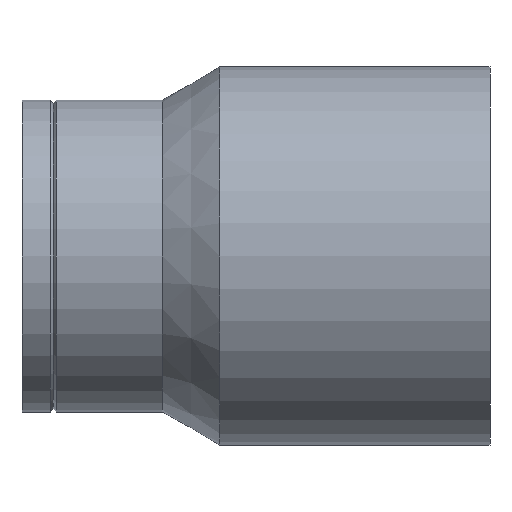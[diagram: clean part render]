
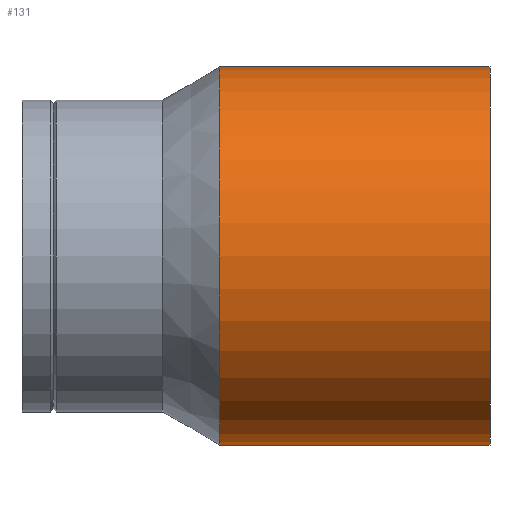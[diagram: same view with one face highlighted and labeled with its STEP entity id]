
A CAD part, front view. The second image highlights one B-rep face of the part: STEP entity #131.
In plain terms, the highlighted cylindrical face has radius 121.2 mm (diameter 242.4 mm), a full revolution.
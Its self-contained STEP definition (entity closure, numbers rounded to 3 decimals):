
#18=CYLINDRICAL_SURFACE($,#154,121.2);
#28=FACE_BOUND($,#59,.T.);
#40=FACE_OUTER_BOUND($,#58,.T.);
#58=EDGE_LOOP($,(#113));
#59=EDGE_LOOP($,(#114));
#72=CIRCLE($,#153,121.2);
#73=CIRCLE($,#155,121.2);
#83=VERTEX_POINT($,#230);
#84=VERTEX_POINT($,#233);
#94=EDGE_CURVE($,#83,#83,#72,.T.);
#95=EDGE_CURVE($,#84,#84,#73,.T.);
#113=ORIENTED_EDGE($,*,*,#95,.F.);
#114=ORIENTED_EDGE($,*,*,#94,.T.);
#131=ADVANCED_FACE($,(#40,#28),#18,.T.);
#153=AXIS2_PLACEMENT_3D($,#231,#193,#194);
#154=AXIS2_PLACEMENT_3D($,#232,#195,#196);
#155=AXIS2_PLACEMENT_3D($,#234,#197,#198);
#193=DIRECTION('center_axis',(1.,0.,0.));
#194=DIRECTION('ref_axis',(0.,1.,0.));
#195=DIRECTION('center_axis',(1.,0.,0.));
#196=DIRECTION('ref_axis',(0.,1.,0.));
#197=DIRECTION('center_axis',(1.,0.,0.));
#198=DIRECTION('ref_axis',(0.,1.,0.));
#230=CARTESIAN_POINT('',(126.719,121.2,0.));
#231=CARTESIAN_POINT('Origin',(126.719,0.,0.));
#232=CARTESIAN_POINT('Origin',(213.36,0.,0.));
#233=CARTESIAN_POINT('',(300.,121.2,0.));
#234=CARTESIAN_POINT('Origin',(300.,0.,0.));
